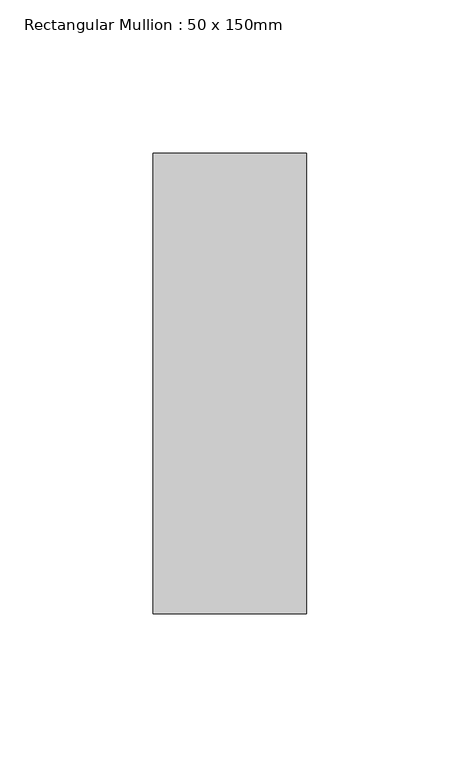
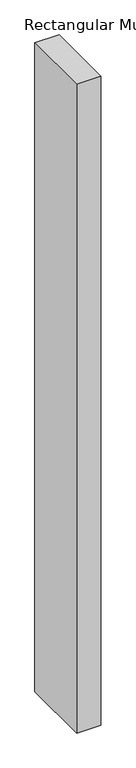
"""IFC4 building model written with IfcOpenShell, lengths in millimetres: member geometry, Rectangular Mullion : 50 x 150mm."""

from ifc_helpers import new_model, si_unit, frame, origin, place, context, project, spatial, polyline, outline, extrude, source, transform, mapped, element, save


def rectangular_mullion_50_x_150mm_59bdb08d(model_context):
    return source(origin(), model_context, "Body", "SweptSolid", [
        extrude(outline(polyline([(0.0, 75.0), (0.0, -75.0), (-50.0, -75.0), (-50.0, 75.0), (0.0, 75.0)])), frame((0.0, 0.0, -1418.7206817), z_axis=(0.0, 0.0, 1.0), x_axis=(1.0, 0.0, 0.0)), (0.0, 0.0, 1.0), 1418.7206817),
    ])


if __name__ == "__main__":
    model = new_model("IFC4")
    model_context = context("Model", 3, world=origin())
    ifc_project = project(units=[si_unit("LENGTHUNIT", "METRE", prefix="MILLI")], contexts=[model_context])
    site = spatial("IfcSite", under=ifc_project)
    building = spatial("IfcBuilding", under=site)
    placement = place(None, origin())
    rectangular_mullion_50_x_150mm_shape = rectangular_mullion_50_x_150mm_59bdb08d(model_context)
    element("IfcMember", 1, ObjectType="Rectangular Mullion : 50 x 150mm", at=placement, inside=building, context=model_context, shape_type="MappedRepresentation", body=[
        mapped(rectangular_mullion_50_x_150mm_shape, transform((0.0, 0.0, 0.0), x_axis=(1.0, 0.0, 0.0), y_axis=(0.0, 1.0, 0.0), z_axis=(0.0, 0.0, 1.0))),
    ])
    save(model, "model.ifc")
